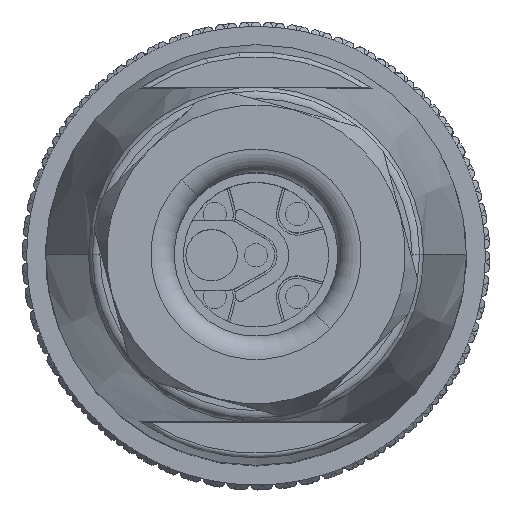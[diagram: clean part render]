
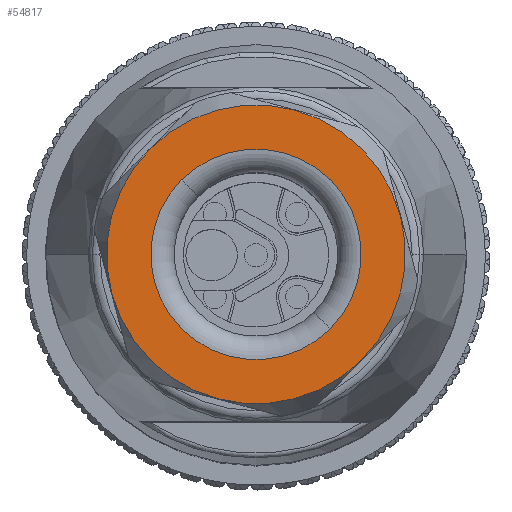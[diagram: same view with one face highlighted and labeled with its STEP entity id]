
A CAD part, top view. The second image highlights one B-rep face of the part: STEP entity #54817.
In plain terms, the highlighted planar face has unit normal (0, 0, 1).
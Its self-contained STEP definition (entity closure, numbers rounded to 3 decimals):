
#17182=CARTESIAN_POINT('',(0.,0.,
38.455));
#17183=DIRECTION('',(0.,0.,-1.));
#17184=DIRECTION('',(0.707,-0.707,0.));
#17185=AXIS2_PLACEMENT_3D('',#17182,#17183,#17184);
#17187=CARTESIAN_POINT('',(0.,0.,
38.455));
#17188=DIRECTION('',(0.,0.,-1.));
#17189=DIRECTION('',(-0.707,0.707,0.));
#17190=AXIS2_PLACEMENT_3D('',#17187,#17188,#17189);
#17192=CARTESIAN_POINT('',(0.,0.,
38.455));
#17193=DIRECTION('',(0.,0.,1.));
#17194=DIRECTION('',(-0.707,0.707,0.));
#17195=AXIS2_PLACEMENT_3D('',#17192,#17193,#17194);
#17197=CARTESIAN_POINT('',(0.,0.,
38.455));
#17198=DIRECTION('',(0.,0.,1.));
#17199=DIRECTION('',(0.707,-0.707,0.));
#17200=AXIS2_PLACEMENT_3D('',#17197,#17198,#17199);
#36810=CARTESIAN_POINT('',(-4.518,4.518,
38.455));
#36812=VERTEX_POINT('',#36810);
#36814=CARTESIAN_POINT('',(4.518,-4.518,
38.455));
#36816=VERTEX_POINT('',#36814);
#36826=CARTESIAN_POINT('',(3.182,-3.182,
38.455));
#36827=CARTESIAN_POINT('',(-3.182,3.182,
38.455));
#36828=VERTEX_POINT('',#36826);
#36829=VERTEX_POINT('',#36827);
#54802=CARTESIAN_POINT('',(0.,0.,
38.455));
#54803=DIRECTION('',(0.,0.,-1.));
#54804=DIRECTION('',(0.707,-0.707,0.));
#54805=AXIS2_PLACEMENT_3D('',#54802,#54803,#54804);
#54806=PLANE('',#54805);
#54808=ORIENTED_EDGE('',*,*,#54807,.F.);
#54810=ORIENTED_EDGE('',*,*,#54809,.F.);
#54811=EDGE_LOOP('',(#54808,#54810));
#54812=FACE_OUTER_BOUND('',#54811,.F.);
#54813=ORIENTED_EDGE('',*,*,#54795,.F.);
#54814=ORIENTED_EDGE('',*,*,#54781,.F.);
#54815=EDGE_LOOP('',(#54813,#54814));
#54816=FACE_BOUND('',#54815,.F.);
#54817=ADVANCED_FACE('',(#54812,#54816),#54806,.F.);
#17186=CIRCLE('',#17185,4.5);
#17191=CIRCLE('',#17190,4.5);
#17196=CIRCLE('',#17195,6.39);
#17201=CIRCLE('',#17200,6.39);
#54781=EDGE_CURVE('',#36829,#36828,#17191,.T.);
#54795=EDGE_CURVE('',#36828,#36829,#17186,.T.);
#54807=EDGE_CURVE('',#36812,#36816,#17196,.T.);
#54809=EDGE_CURVE('',#36816,#36812,#17201,.T.);
